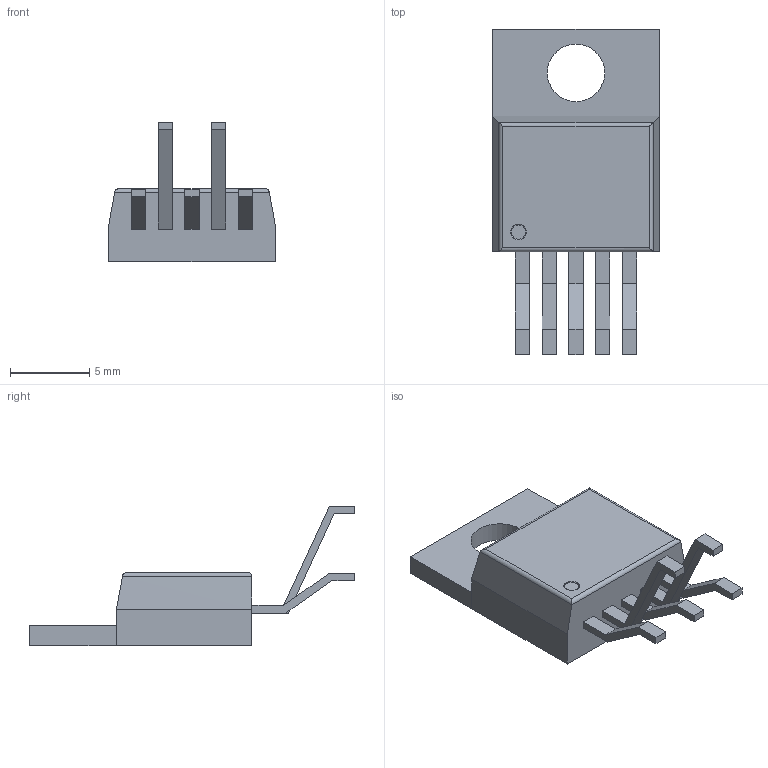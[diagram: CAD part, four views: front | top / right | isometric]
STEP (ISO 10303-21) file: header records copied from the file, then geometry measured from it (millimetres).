
FILE_DESCRIPTION (( 'STEP AP214' ), '1' );
FILE_NAME ( 'TO170P1054X462X1957-5P.STEP', '2014-04-11T12:31:23', ( '' ), ( '' ), 'FPX Expert 2013', 'PCB Libraries', '' );
FILE_SCHEMA (( 'AUTOMOTIVE_DESIGN' ));
Length unit declared in the file: millimetre
Products named in the file (1): TO170P1054X462X1957-5P
Bounding box: 10.54 x 20.57 x 8.82 mm (x, y, z)
Volume: 482.6 mm3; surface area: 611.8 mm2
Topology: 7 solids, 7 shells, 74 faces, 173 edges, 114 vertices
Faces by surface type: plane 66, cylinder 6, torus 2
Entity records: 2388 total; most frequent: CARTESIAN_POINT 380, ORIENTED_EDGE 346, DIRECTION 327, EDGE_CURVE 173, VECTOR 157, LINE 157, VERTEX_POINT 114, AXIS2_PLACEMENT_3D 85
